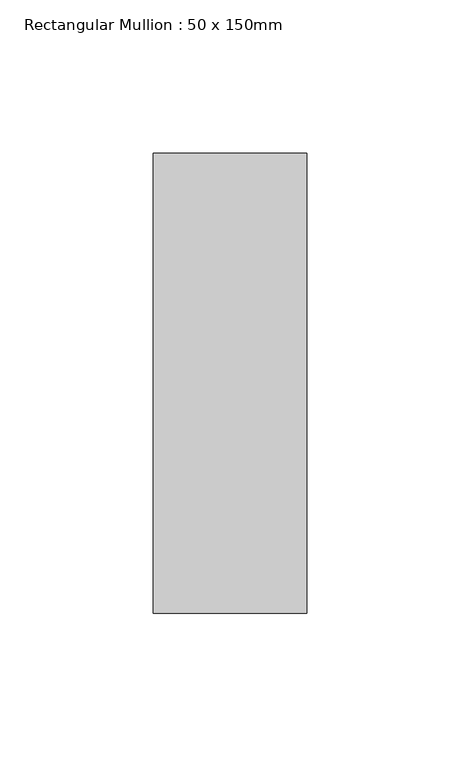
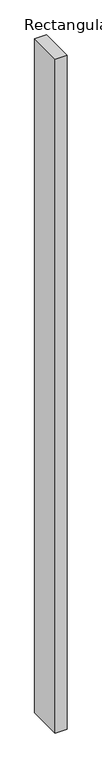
"""IFC4 building model written with IfcOpenShell, lengths in millimetres: member geometry, Rectangular Mullion : 50 x 150mm."""

from ifc_helpers import new_model, si_unit, frame, origin, place, context, project, spatial, polyline, outline, extrude, source, transform, mapped, element, save


def rectangular_mullion_50_x_150mm_cd873b1a(model_context):
    return source(origin(), model_context, "Body", "SweptSolid", [
        extrude(outline(polyline([(25.0, 75.0), (25.0, -75.0), (-25.0, -75.0), (-25.0, 75.0), (25.0, 75.0)])), frame((0.0, 0.0, -3015.4395036), z_axis=(0.0, 0.0, 1.0), x_axis=(1.0, 0.0, 0.0)), (0.0, 0.0, 1.0), 3015.4395036),
    ])


if __name__ == "__main__":
    model = new_model("IFC4")
    model_context = context("Model", 3, world=origin())
    ifc_project = project(units=[si_unit("LENGTHUNIT", "METRE", prefix="MILLI")], contexts=[model_context])
    site = spatial("IfcSite", under=ifc_project)
    building = spatial("IfcBuilding", under=site)
    placement = place(None, origin())
    rectangular_mullion_50_x_150mm_shape = rectangular_mullion_50_x_150mm_cd873b1a(model_context)
    element("IfcMember", 1, ObjectType="Rectangular Mullion : 50 x 150mm", at=placement, inside=building, context=model_context, shape_type="MappedRepresentation", body=[
        mapped(rectangular_mullion_50_x_150mm_shape, transform((0.0, 0.0, 0.0), x_axis=(1.0, 0.0, 0.0), y_axis=(0.0, 1.0, 0.0), z_axis=(0.0, 0.0, 1.0))),
    ])
    save(model, "model.ifc")
